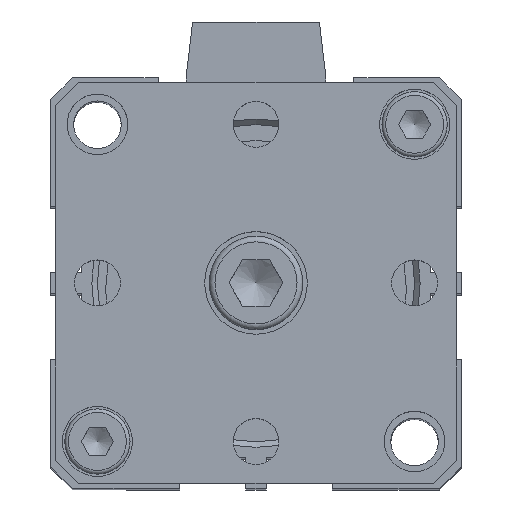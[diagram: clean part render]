
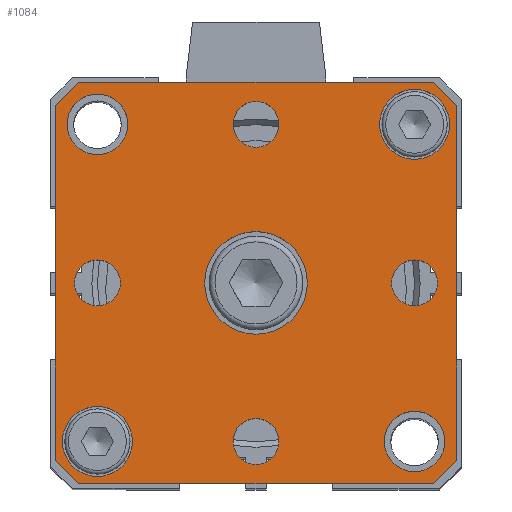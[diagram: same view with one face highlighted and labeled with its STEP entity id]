
A CAD part, top view. The second image highlights one B-rep face of the part: STEP entity #1084.
In plain terms, the highlighted planar face has unit normal (0, 0, 1).
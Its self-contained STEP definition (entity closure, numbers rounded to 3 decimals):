
#290=CARTESIAN_POINT('',(-16.976,-17.12,116.5));
#291=VERTEX_POINT('',#290);
#292=CARTESIAN_POINT('',(-20.726,-17.12,116.5));
#293=DIRECTION('',(0.0,0.0,-1.0));
#294=DIRECTION('',(1.0,0.0,0.0));
#295=AXIS2_PLACEMENT_3D('',#292,#293,#294);
#296=CIRCLE('',#295,3.75);
#297=EDGE_CURVE('',#291,#291,#296,.T.);
#392=CARTESIAN_POINT('',(17.024,16.88,116.5));
#393=VERTEX_POINT('',#392);
#394=CARTESIAN_POINT('',(13.274,16.88,116.5));
#395=DIRECTION('',(0.0,0.0,-1.0));
#396=DIRECTION('',(1.0,0.0,0.0));
#397=AXIS2_PLACEMENT_3D('',#394,#395,#396);
#398=CIRCLE('',#397,3.75);
#399=EDGE_CURVE('',#393,#393,#398,.T.);
#477=CARTESIAN_POINT('',(15.733,-0.12,116.5));
#478=VERTEX_POINT('',#477);
#479=CARTESIAN_POINT('',(13.274,-0.12,116.5));
#480=DIRECTION('',(0.0,0.0,-1.0));
#481=DIRECTION('',(1.0,0.0,0.0));
#482=AXIS2_PLACEMENT_3D('',#479,#480,#481);
#483=CIRCLE('',#482,2.459);
#484=EDGE_CURVE('',#478,#478,#483,.T.);
#526=CARTESIAN_POINT('',(-1.267,-17.12,116.5));
#527=VERTEX_POINT('',#526);
#528=CARTESIAN_POINT('',(-3.726,-17.12,116.5));
#529=DIRECTION('',(0.0,0.0,-1.0));
#530=DIRECTION('',(1.0,0.0,0.0));
#531=AXIS2_PLACEMENT_3D('',#528,#529,#530);
#532=CIRCLE('',#531,2.459);
#533=EDGE_CURVE('',#527,#527,#532,.T.);
#575=CARTESIAN_POINT('',(-18.267,-0.12,116.5));
#576=VERTEX_POINT('',#575);
#577=CARTESIAN_POINT('',(-20.726,-0.12,116.5));
#578=DIRECTION('',(0.0,0.0,-1.0));
#579=DIRECTION('',(1.0,0.0,0.0));
#580=AXIS2_PLACEMENT_3D('',#577,#578,#579);
#581=CIRCLE('',#580,2.459);
#582=EDGE_CURVE('',#576,#576,#581,.T.);
#624=CARTESIAN_POINT('',(-1.267,16.88,116.5));
#625=VERTEX_POINT('',#624);
#626=CARTESIAN_POINT('',(-3.726,16.88,116.5));
#627=DIRECTION('',(0.0,0.0,-1.0));
#628=DIRECTION('',(1.0,0.0,0.0));
#629=AXIS2_PLACEMENT_3D('',#626,#627,#628);
#630=CIRCLE('',#629,2.459);
#631=EDGE_CURVE('',#625,#625,#630,.T.);
#690=CARTESIAN_POINT('',(1.774,-0.12,116.5));
#691=VERTEX_POINT('',#690);
#692=CARTESIAN_POINT('',(-3.726,-0.12,116.5));
#693=DIRECTION('',(0.0,0.0,-1.0));
#694=DIRECTION('',(1.0,0.0,0.0));
#695=AXIS2_PLACEMENT_3D('',#692,#693,#694);
#696=CIRCLE('',#695,5.5);
#697=EDGE_CURVE('',#691,#691,#696,.T.);
#743=CARTESIAN_POINT('',(16.524,-17.12,116.5));
#744=VERTEX_POINT('',#743);
#745=CARTESIAN_POINT('',(13.274,-17.12,116.5));
#746=DIRECTION('',(0.0,0.0,-1.0));
#747=DIRECTION('',(-1.0,0.0,0.0));
#748=AXIS2_PLACEMENT_3D('',#745,#746,#747);
#749=CIRCLE('',#748,3.25);
#750=EDGE_CURVE('',#744,#744,#749,.T.);
#771=CARTESIAN_POINT('',(-17.476,16.88,116.5));
#772=VERTEX_POINT('',#771);
#773=CARTESIAN_POINT('',(-20.726,16.88,116.5));
#774=DIRECTION('',(0.0,0.0,-1.0));
#775=DIRECTION('',(-1.0,0.0,0.0));
#776=AXIS2_PLACEMENT_3D('',#773,#774,#775);
#777=CIRCLE('',#776,3.25);
#778=EDGE_CURVE('',#772,#772,#777,.T.);
#799=CARTESIAN_POINT('',(-22.726,21.38,116.5));
#800=VERTEX_POINT('',#799);
#801=CARTESIAN_POINT('',(15.274,21.38,116.5));
#802=VERTEX_POINT('',#801);
#803=CARTESIAN_POINT('',(-22.726,21.38,116.5));
#804=DIRECTION('',(1.0,0.0,0.0));
#805=VECTOR('',#804,38.);
#806=LINE('',#803,#805);
#807=EDGE_CURVE('',#800,#802,#806,.T.);
#839=CARTESIAN_POINT('',(17.774,18.88,116.5));
#840=VERTEX_POINT('',#839);
#841=CARTESIAN_POINT('',(15.274,21.38,116.5));
#842=DIRECTION('',(0.707,-0.707,0.0));
#843=VECTOR('',#842,3.536);
#844=LINE('',#841,#843);
#845=EDGE_CURVE('',#802,#840,#844,.T.);
#870=CARTESIAN_POINT('',(17.774,-19.12,116.5));
#871=VERTEX_POINT('',#870);
#872=CARTESIAN_POINT('',(17.774,18.88,116.5));
#873=DIRECTION('',(0.0,-1.0,0.0));
#874=VECTOR('',#873,38.);
#875=LINE('',#872,#874);
#876=EDGE_CURVE('',#840,#871,#875,.T.);
#901=CARTESIAN_POINT('',(15.274,-21.62,116.5));
#902=VERTEX_POINT('',#901);
#903=CARTESIAN_POINT('',(17.774,-19.12,116.5));
#904=DIRECTION('',(-0.707,-0.707,0.0));
#905=VECTOR('',#904,3.536);
#906=LINE('',#903,#905);
#907=EDGE_CURVE('',#871,#902,#906,.T.);
#932=CARTESIAN_POINT('',(-22.726,-21.62,116.5));
#933=VERTEX_POINT('',#932);
#934=CARTESIAN_POINT('',(15.274,-21.62,116.5));
#935=DIRECTION('',(-1.0,0.0,0.0));
#936=VECTOR('',#935,38.);
#937=LINE('',#934,#936);
#938=EDGE_CURVE('',#902,#933,#937,.T.);
#963=CARTESIAN_POINT('',(-25.226,-19.12,116.5));
#964=VERTEX_POINT('',#963);
#965=CARTESIAN_POINT('',(-22.726,-21.62,116.5));
#966=DIRECTION('',(-0.707,0.707,0.0));
#967=VECTOR('',#966,3.536);
#968=LINE('',#965,#967);
#969=EDGE_CURVE('',#933,#964,#968,.T.);
#994=CARTESIAN_POINT('',(-25.226,18.88,116.5));
#995=VERTEX_POINT('',#994);
#996=CARTESIAN_POINT('',(-25.226,-19.12,116.5));
#997=DIRECTION('',(0.0,1.0,0.0));
#998=VECTOR('',#997,38.);
#999=LINE('',#996,#998);
#1000=EDGE_CURVE('',#964,#995,#999,.T.);
#1025=CARTESIAN_POINT('',(-25.226,18.88,116.5));
#1026=DIRECTION('',(0.707,0.707,0.0));
#1027=VECTOR('',#1026,3.536);
#1028=LINE('',#1025,#1027);
#1029=EDGE_CURVE('',#995,#800,#1028,.T.);
#1042=CARTESIAN_POINT('',(-3.726,-0.12,116.5));
#1043=DIRECTION('',(0.0,0.0,1.0));
#1044=DIRECTION('',(1.0,0.0,0.0));
#1045=AXIS2_PLACEMENT_3D('',#1042,#1043,#1044);
#1046=PLANE('',#1045);
#1047=ORIENTED_EDGE('',*,*,#807,.F.);
#1048=ORIENTED_EDGE('',*,*,#1029,.F.);
#1049=ORIENTED_EDGE('',*,*,#1000,.F.);
#1050=ORIENTED_EDGE('',*,*,#969,.F.);
#1051=ORIENTED_EDGE('',*,*,#938,.F.);
#1052=ORIENTED_EDGE('',*,*,#907,.F.);
#1053=ORIENTED_EDGE('',*,*,#876,.F.);
#1054=ORIENTED_EDGE('',*,*,#845,.F.);
#1055=EDGE_LOOP('',(#1047,#1048,#1049,#1050,#1051,#1052,#1053,#1054));
#1056=FACE_OUTER_BOUND('',#1055,.T.);
#1057=ORIENTED_EDGE('',*,*,#297,.T.);
#1058=EDGE_LOOP('',(#1057));
#1059=FACE_BOUND('',#1058,.T.);
#1060=ORIENTED_EDGE('',*,*,#399,.T.);
#1061=EDGE_LOOP('',(#1060));
#1062=FACE_BOUND('',#1061,.T.);
#1063=ORIENTED_EDGE('',*,*,#484,.T.);
#1064=EDGE_LOOP('',(#1063));
#1065=FACE_BOUND('',#1064,.T.);
#1066=ORIENTED_EDGE('',*,*,#533,.T.);
#1067=EDGE_LOOP('',(#1066));
#1068=FACE_BOUND('',#1067,.T.);
#1069=ORIENTED_EDGE('',*,*,#582,.T.);
#1070=EDGE_LOOP('',(#1069));
#1071=FACE_BOUND('',#1070,.T.);
#1072=ORIENTED_EDGE('',*,*,#631,.T.);
#1073=EDGE_LOOP('',(#1072));
#1074=FACE_BOUND('',#1073,.T.);
#1075=ORIENTED_EDGE('',*,*,#697,.T.);
#1076=EDGE_LOOP('',(#1075));
#1077=FACE_BOUND('',#1076,.T.);
#1078=ORIENTED_EDGE('',*,*,#750,.T.);
#1079=EDGE_LOOP('',(#1078));
#1080=FACE_BOUND('',#1079,.T.);
#1081=ORIENTED_EDGE('',*,*,#778,.T.);
#1082=EDGE_LOOP('',(#1081));
#1083=FACE_BOUND('',#1082,.T.);
#1084=ADVANCED_FACE('',(#1056,#1059,#1062,#1065,#1068,#1071,#1074,#1077,#1080,#1083),#1046,.T.);
